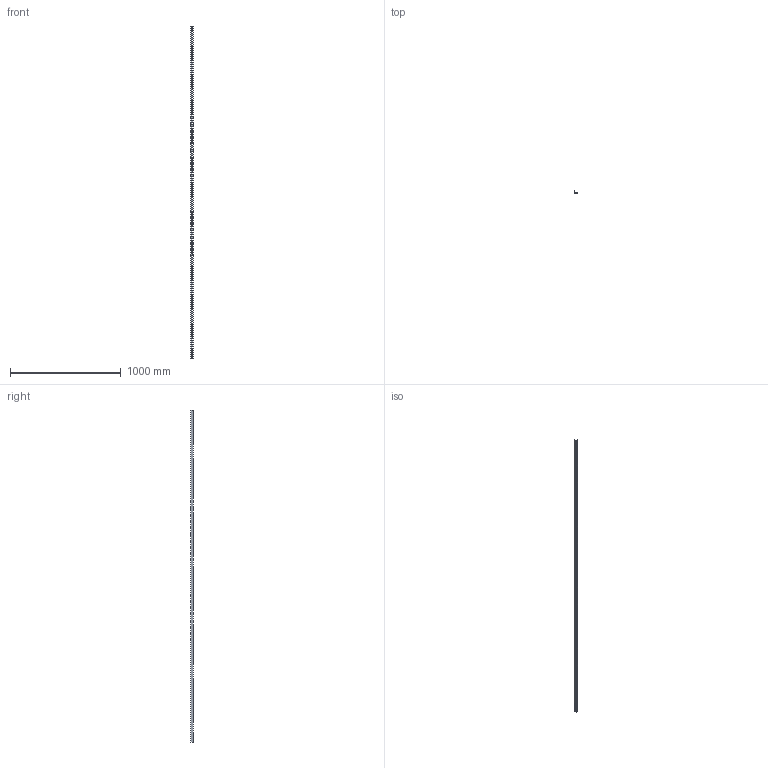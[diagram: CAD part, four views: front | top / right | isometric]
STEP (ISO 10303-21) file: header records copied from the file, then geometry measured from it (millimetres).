
FILE_DESCRIPTION (( 'STEP AP203' ), '1' );
FILE_NAME ('EF2500.STEP', '2024-09-05T06:36:24', ( '' ), ( '' ), 'SwSTEP 2.0', 'SolidWorks 2023', '' );
FILE_SCHEMA (( 'CONFIG_CONTROL_DESIGN' ));
Length unit declared in the file: millimetre
Products named in the file (1): EF2500
Bounding box: 25 x 25 x 3000 mm (x, y, z)
Volume: 367738.7 mm3; surface area: 261289.8 mm2
Topology: 1 solids, 1 shells, 409 faces, 1221 edges, 814 vertices
Faces by surface type: cylinder 243, plane 166
Entity records: 14338 total; most frequent: DIRECTION 2527, CARTESIAN_POINT 2445, ORIENTED_EDGE 2442, EDGE_CURVE 1221, AXIS2_PLACEMENT_3D 896, VERTEX_POINT 814, VECTOR 735, LINE 735
